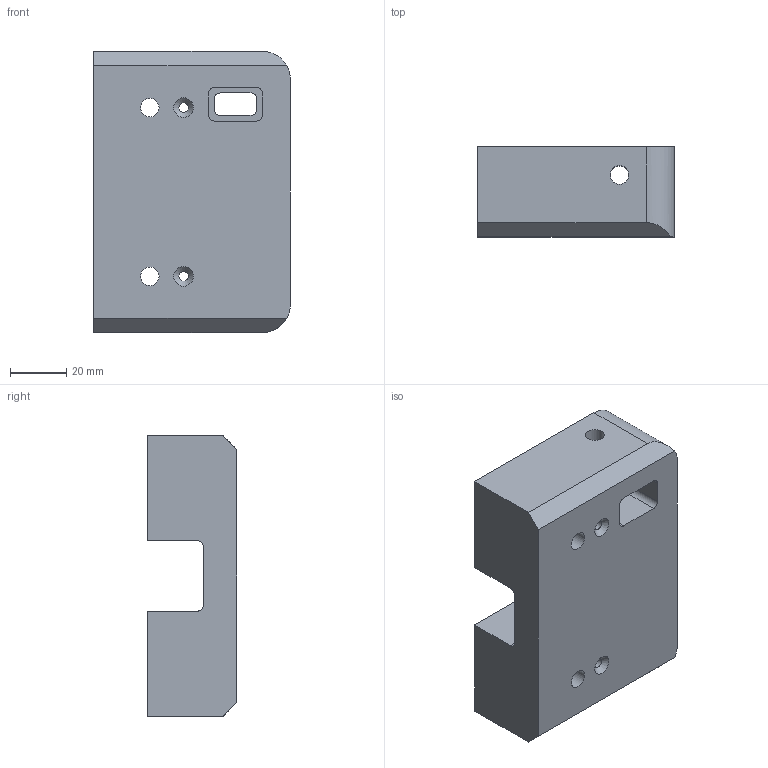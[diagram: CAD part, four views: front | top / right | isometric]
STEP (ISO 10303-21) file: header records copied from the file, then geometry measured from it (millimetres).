
FILE_DESCRIPTION(/* description */ ('FIXATION ARRIERE','CAx-IF Rec.Pracs.---Representation and Presentation of Product Manufacturing Information (PMI)---4.0---2014-10-13'),/* implementation_level */ '2;1');
FILE_NAME(/* name */ 'vv810017-A.stp',/* time_stamp */ '2025-09-29T10:10:45+02:00',/* author */ ('ALOCQUE'),/* organization */ (''),/* preprocessor_version */ 'ST-DEVELOPER v20',/* originating_system */ 'Autodesk Inventor 2025',/* authorisation */ '');
FILE_SCHEMA (('AP242_MANAGED_MODEL_BASED_3D_ENGINEERING_MIM_LF { 1 0 10303 442 1 1 4 }'));
Length unit declared in the file: millimetre
Products named in the file (1): VICTOR.V.81.00.17
Bounding box: 70 x 32 x 100 mm (x, y, z)
Volume: 162356.9 mm3; surface area: 31419 mm2
Topology: 1 solids, 1 shells, 59 faces, 157 edges, 104 vertices
Faces by surface type: plane 31, cylinder 26, cone 2
Full cylindrical faces by diameter (mm): 3.4 x2, 6.6 x5, 11 x1
Entity records: 2224 total; most frequent: CARTESIAN_POINT 419, DIRECTION 363, ORIENTED_EDGE 314, EDGE_CURVE 157, AXIS2_PLACEMENT_3D 132, VERTEX_POINT 104, LINE 99, VECTOR 99
